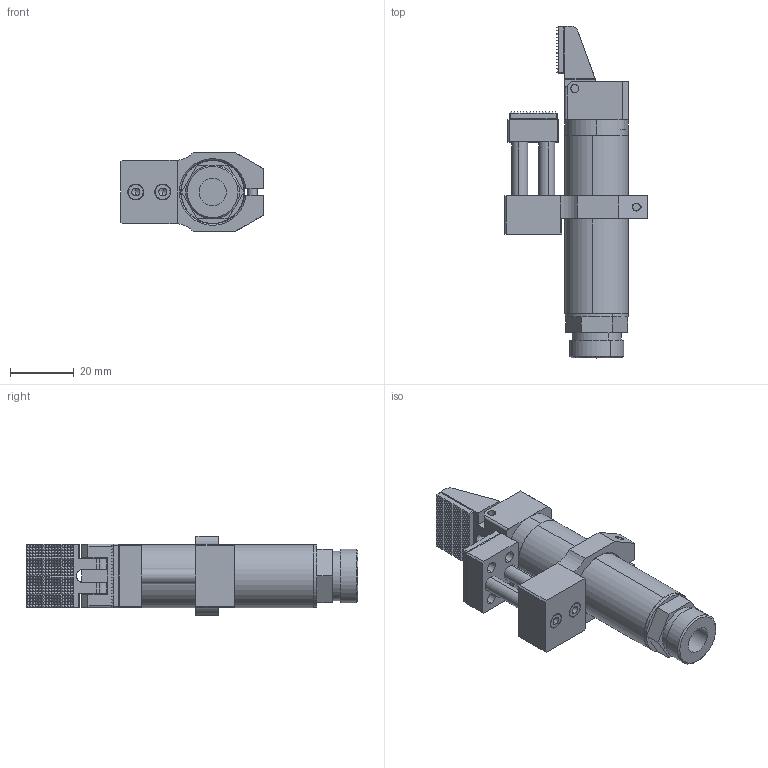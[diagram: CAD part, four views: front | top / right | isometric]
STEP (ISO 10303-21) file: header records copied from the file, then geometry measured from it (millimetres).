
FILE_DESCRIPTION (( 'STEP AP214' ), '1' );
FILE_NAME ('CA.GRF.2095.VSX.STEP', '2018-01-26T09:32:01', ( '' ), ( '' ), 'SwSTEP 2.0', 'SolidWorks 2017', '' );
FILE_SCHEMA (( 'AUTOMOTIVE_DESIGN' ));
Length unit declared in the file: millimetre
Products named in the file (14): GRF20.95.08.V; CA.GRF.2095.VSX; CA.GRF.2095.GW.; GRF20.95.09.; GRF20.95.05.; GRF20.95.02.; GRF20.95.01.; GRF20.95.08.V.; GRF20.VSX; R.3.SCH; V.TCE3x12; GRF20.95.11; GRF20.95.13; GRF20.95.12
Assembly tree (14 placements, depth 3):
  CA.GRF.2095.VSX
    GRF20.VSX
      GRF20.95.08.V
      GRF20.95.12  x2
      GRF20.95.13
      GRF20.95.11
      V.TCE3x12
      R.3.SCH
    CA.GRF.2095.GW.
      GRF20.95.08.V.
      GRF20.95.01.
      GRF20.95.02.
      GRF20.95.05.
      GRF20.95.09.
Bounding box: 45 x 104.5 x 25 mm (x, y, z)
Volume: 19329.7 mm3; surface area: 22847.1 mm2
Topology: 11 solids, 13 shells, 2885 faces, 4945 edges, 2089 vertices
Faces by surface type: plane 2720, cylinder 120, cone 25, bspline 20
Entity records: 62754 total; most frequent: DIRECTION 11015, CARTESIAN_POINT 10317, ORIENTED_EDGE 9780, EDGE_CURVE 4891, LINE 4431, VECTOR 4431, AXIS2_PLACEMENT_3D 3292, EDGE_LOOP 2912
